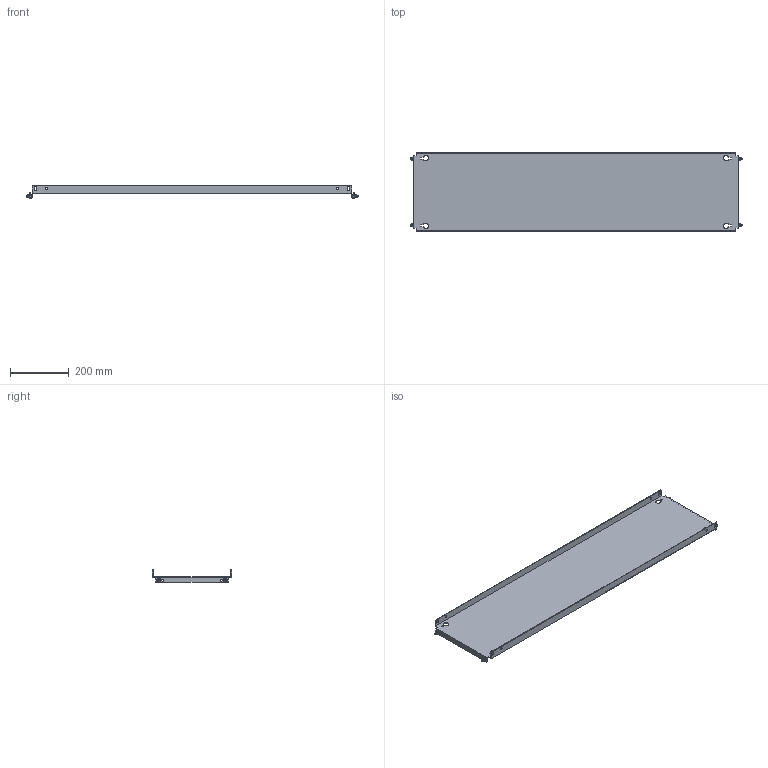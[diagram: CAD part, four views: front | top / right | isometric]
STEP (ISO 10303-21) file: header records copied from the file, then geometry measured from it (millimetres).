
FILE_DESCRIPTION(('Open CASCADE Model'),'2;1');
FILE_NAME('Open CASCADE Shape Model','2025-02-24T17:07:10',('Author'),( 'Open CASCADE'),'Open CASCADE STEP processor 7.8','Open CASCADE 7.8' ,'Unknown');
FILE_SCHEMA(('AUTOMOTIVE_DESIGN { 1 0 10303 214 1 1 1 1 }'));
Length unit declared in the file: millimetre
Products named in the file (4): Compound1; Solid1; Solid2; Solid3
Assembly tree (9 placements, depth 2):
  Compound1
    Solid1
    Solid2  x4
    Solid3  x4
Bounding box: 1127 x 269 x 42.59 mm (x, y, z)
Volume: 887287.3 mm3; surface area: 719214 mm2
Topology: 9 solids, 9 shells, 306 faces, 746 edges, 462 vertices
Faces by surface type: plane 150, cone 68, bspline 48, cylinder 28, torus 12
Full cylindrical faces by diameter (mm): 5 x4, 6 x8, 7 x12
Entity records: 4844 total; most frequent: CARTESIAN_POINT 1361, ORIENTED_EDGE 742, DIRECTION 628, EDGE_CURVE 371, VERTEX_POINT 240, LINE 216, VECTOR 216, AXIS2_PLACEMENT_3D 206
